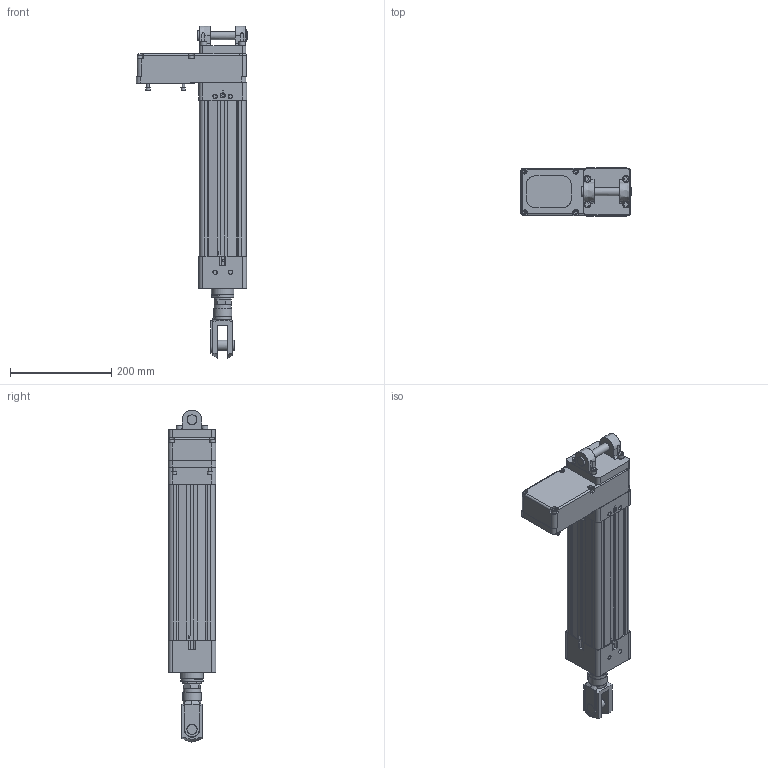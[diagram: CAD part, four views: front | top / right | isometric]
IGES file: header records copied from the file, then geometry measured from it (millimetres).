
Start section: SolidWorks IGES file using analytic representation for surfaces
Global section: file name: N:\Temp\RSA50_BNM05_SM200.000_RS-486803-1.igs; native system: SolidWorks 2024; preprocessor: SolidWorks 2024; author: MB; date: 250422.141512; units: inch
Bounding box: 219.15 x 94.23 x 655.1 mm (x, y, z)
Surface area: 575331.3 mm2 (no closed solid volume)
Topology: 0 solids, 0 shells, 1121 faces, 19560 edges, 19344 vertices
Faces by surface type: bspline 738, revolution 383
